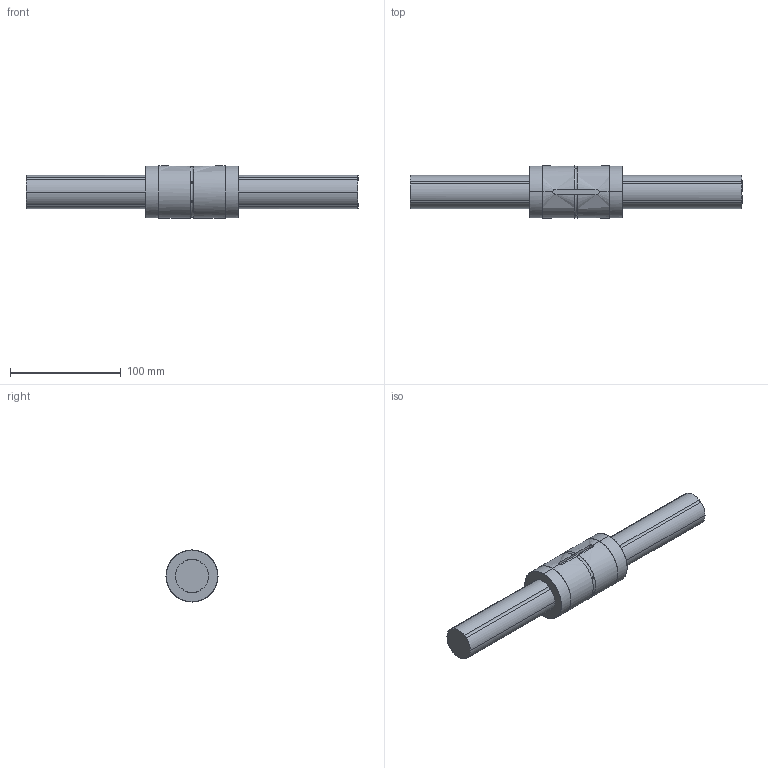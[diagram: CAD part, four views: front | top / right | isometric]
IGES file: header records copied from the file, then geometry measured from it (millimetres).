
Global section: file name: No Iges File Name specified; native system: AutoDesk Inventor R11.0; preprocessor: AutoDesk Inventor Iges Exporter R11.0; author: No Author specified; organization: No Organization specified; date: 20150223.132845; units: millimetre
Bounding box: 300 x 47 x 47 mm (x, y, z)
Surface area: 53013.3 mm2 (no closed solid volume)
Topology: 0 solids, 0 shells, 51 faces, 384 edges, 384 vertices
Faces by surface type: bspline 51
